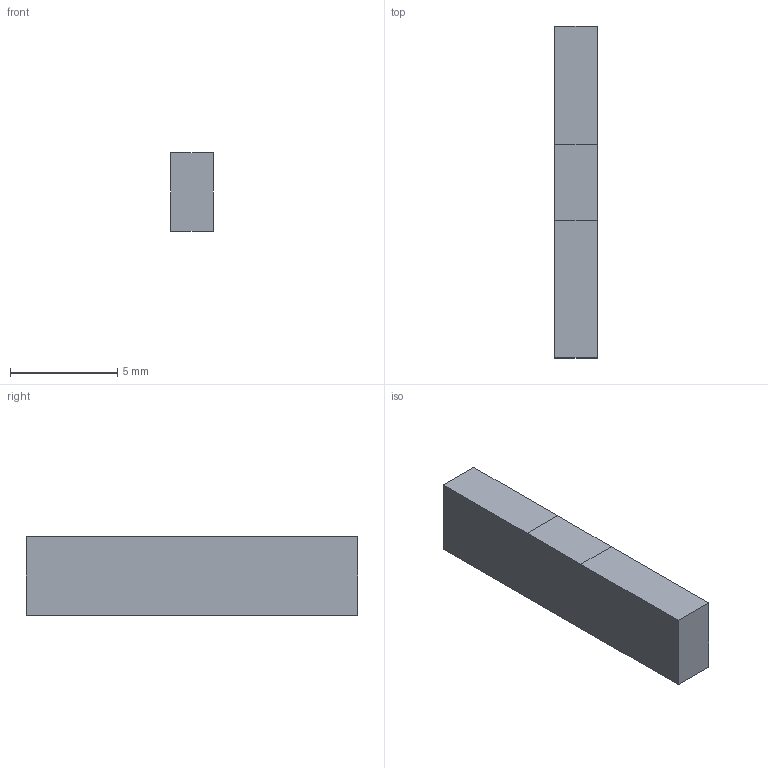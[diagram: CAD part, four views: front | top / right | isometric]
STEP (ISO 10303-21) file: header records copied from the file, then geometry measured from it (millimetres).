
FILE_DESCRIPTION(/* description */ ('STEP AP242 Edition 2','CAx-IF Rec.Pracs.---Representation and Presentation of Product Manufacturing Information (PMI)---4.0---2014-10-13','CAx-IF Rec.Pracs.---3D Tessellated Geometry---0.4---2014-09-14','2;1','CAx-IF Rec.Pracs.---User Defined Attributes---1.5---2016-08-15'),/* implementation_level */ '2;1');
FILE_NAME(/* name */ 'LCD_TFT_1.8_SPI_ST7735 - Part 7',/* time_stamp */ '2026-04-28T02:34:33Z',/* author */ (''),/* organization */ (''),/* preprocessor_version */ 'ST-DEVELOPER v20',/* originating_system */ 'ONSHAPE BY PTC INC, 1.214',/* authorisation */ ' ');
FILE_SCHEMA (('AP242_MANAGED_MODEL_BASED_3D_ENGINEERING_MIM_LF { 1 0 10303 442 3 1 4 }'));
Length unit declared in the file: metre
Products named in the file (1): Part 7
Bounding box: 2 x 15.45 x 3.66 mm (x, y, z)
Volume: 113.2 mm3; surface area: 189.6 mm2
Topology: 1 solids, 1 shells, 8 faces, 18 edges, 12 vertices
Faces by surface type: plane 8
Entity records: 244 total; most frequent: CARTESIAN_POINT 39, ORIENTED_EDGE 36, DIRECTION 36, EDGE_CURVE 18, LINE 18, VECTOR 18, VERTEX_POINT 12, AXIS2_PLACEMENT_3D 9
